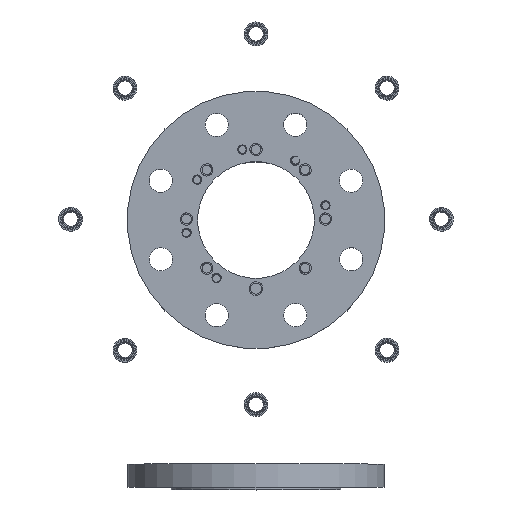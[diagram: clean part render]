
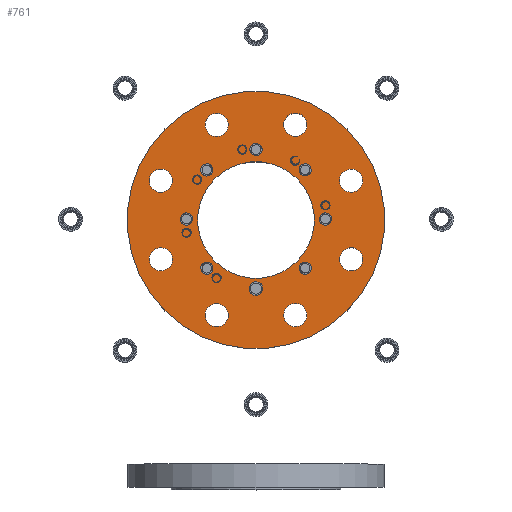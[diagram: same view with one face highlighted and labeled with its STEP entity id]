
A CAD part, top view. The second image highlights one B-rep face of the part: STEP entity #761.
In plain terms, the highlighted planar face has unit normal (0, 0, 1).
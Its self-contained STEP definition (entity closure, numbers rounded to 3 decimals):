
#761 = ADVANCED_FACE( '', ( #1603, #1604, #1605, #1606, #1607, #1608, #1609, #1610, #1611, #1612 ), #1613, .F. );
#1603 = FACE_BOUND( '', #3408, .T. );
#1604 = FACE_BOUND( '', #3409, .T. );
#1605 = FACE_BOUND( '', #3410, .T. );
#1606 = FACE_BOUND( '', #3411, .T. );
#1607 = FACE_BOUND( '', #3412, .T. );
#1608 = FACE_BOUND( '', #3413, .T. );
#1609 = FACE_BOUND( '', #3414, .T. );
#1610 = FACE_BOUND( '', #3415, .T. );
#1611 = FACE_BOUND( '', #3416, .T. );
#1612 = FACE_OUTER_BOUND( '', #3417, .T. );
#1613 = PLANE( '', #3418 );
#3408 = EDGE_LOOP( '', ( #6665 ) );
#3409 = EDGE_LOOP( '', ( #6666 ) );
#3410 = EDGE_LOOP( '', ( #6667 ) );
#3411 = EDGE_LOOP( '', ( #6668 ) );
#3412 = EDGE_LOOP( '', ( #6669 ) );
#3413 = EDGE_LOOP( '', ( #6670 ) );
#3414 = EDGE_LOOP( '', ( #6671 ) );
#3415 = EDGE_LOOP( '', ( #6672 ) );
#3416 = EDGE_LOOP( '', ( #6673 ) );
#3417 = EDGE_LOOP( '', ( #6674 ) );
#3418 = AXIS2_PLACEMENT_3D( '', #6675, #6676, #6677 );
#6665 = ORIENTED_EDGE( '', *, *, #8170, .F. );
#6666 = ORIENTED_EDGE( '', *, *, #8171, .T. );
#6667 = ORIENTED_EDGE( '', *, *, #7952, .T. );
#6668 = ORIENTED_EDGE( '', *, *, #8172, .T. );
#6669 = ORIENTED_EDGE( '', *, *, #8173, .T. );
#6670 = ORIENTED_EDGE( '', *, *, #8174, .T. );
#6671 = ORIENTED_EDGE( '', *, *, #7866, .T. );
#6672 = ORIENTED_EDGE( '', *, *, #7992, .T. );
#6673 = ORIENTED_EDGE( '', *, *, #8175, .T. );
#6674 = ORIENTED_EDGE( '', *, *, #7936, .T. );
#6675 = CARTESIAN_POINT( '', ( 70.711, -208.211, -258.5 ) );
#6676 = DIRECTION( '', ( 0., 0., -1. ) );
#6677 = DIRECTION( '', ( -0.707, 0.707, 0. ) );
#7866 = EDGE_CURVE( '', #8660, #8660, #8661, .T. );
#7936 = EDGE_CURVE( '', #8789, #8789, #8790, .T. );
#7952 = EDGE_CURVE( '', #8814, #8814, #8815, .T. );
#7992 = EDGE_CURVE( '', #8881, #8881, #8882, .T. );
#8170 = EDGE_CURVE( '', #9160, #9160, #9161, .T. );
#8171 = EDGE_CURVE( '', #9162, #9162, #9163, .T. );
#8172 = EDGE_CURVE( '', #9164, #9164, #9165, .T. );
#8173 = EDGE_CURVE( '', #9166, #9166, #9167, .T. );
#8174 = EDGE_CURVE( '', #9168, #9168, #9169, .T. );
#8175 = EDGE_CURVE( '', #9170, #9170, #9171, .T. );
#8660 = VERTEX_POINT( '', #10203 );
#8661 = CIRCLE( '', #10204, 9. );
#8789 = VERTEX_POINT( '', #10434 );
#8790 = CIRCLE( '', #10435, 100. );
#8814 = VERTEX_POINT( '', #10509 );
#8815 = CIRCLE( '', #10510, 9. );
#8881 = VERTEX_POINT( '', #10683 );
#8882 = CIRCLE( '', #10684, 9. );
#9160 = VERTEX_POINT( '', #11963 );
#9161 = CIRCLE( '', #11964, 45.25 );
#9162 = VERTEX_POINT( '', #11965 );
#9163 = CIRCLE( '', #11966, 9. );
#9164 = VERTEX_POINT( '', #11967 );
#9165 = CIRCLE( '', #11968, 9. );
#9166 = VERTEX_POINT( '', #11969 );
#9167 = CIRCLE( '', #11970, 9. );
#9168 = VERTEX_POINT( '', #11971 );
#9169 = CIRCLE( '', #11972, 9. );
#9170 = VERTEX_POINT( '', #11973 );
#9171 = CIRCLE( '', #11974, 9. );
#10203 = CARTESIAN_POINT( '', ( 36.979, -205.046, -258.5 ) );
#10204 = AXIS2_PLACEMENT_3D( '', #13897, #13898, #13899 );
#10434 = CARTESIAN_POINT( '', ( 70.711, -208.211, -258.5 ) );
#10435 = AXIS2_PLACEMENT_3D( '', #14001, #14002, #14003 );
#10509 = CARTESIAN_POINT( '', ( -36.979, -69.954, -258.5 ) );
#10510 = AXIS2_PLACEMENT_3D( '', #14012, #14013, #14014 );
#10683 = CARTESIAN_POINT( '', ( -21.615, -211.41, -258.5 ) );
#10684 = AXIS2_PLACEMENT_3D( '', #14051, #14052, #14053 );
#11963 = CARTESIAN_POINT( '', ( -31.997, -169.497, -258.5 ) );
#11964 = AXIS2_PLACEMENT_3D( '', #14164, #14165, #14166 );
#11965 = CARTESIAN_POINT( '', ( -73.91, -115.885, -258.5 ) );
#11966 = AXIS2_PLACEMENT_3D( '', #14167, #14168, #14169 );
#11967 = CARTESIAN_POINT( '', ( 21.615, -63.59, -258.5 ) );
#11968 = AXIS2_PLACEMENT_3D( '', #14170, #14171, #14172 );
#11969 = CARTESIAN_POINT( '', ( 67.546, -100.521, -258.5 ) );
#11970 = AXIS2_PLACEMENT_3D( '', #14173, #14174, #14175 );
#11971 = CARTESIAN_POINT( '', ( 73.91, -159.115, -258.5 ) );
#11972 = AXIS2_PLACEMENT_3D( '', #14176, #14177, #14178 );
#11973 = CARTESIAN_POINT( '', ( -67.546, -174.479, -258.5 ) );
#11974 = AXIS2_PLACEMENT_3D( '', #14179, #14180, #14181 );
#13897 = CARTESIAN_POINT( '', ( 30.615, -211.41, -258.5 ) );
#13898 = DIRECTION( '', ( 0., 0., -1. ) );
#13899 = DIRECTION( '', ( 0.707, 0.707, 0. ) );
#14001 = CARTESIAN_POINT( '', ( 0., -137.5, -258.5 ) );
#14002 = DIRECTION( '', ( 0., 0., 1. ) );
#14003 = DIRECTION( '', ( 0.707, -0.707, 0. ) );
#14012 = CARTESIAN_POINT( '', ( -30.615, -63.59, -258.5 ) );
#14013 = DIRECTION( '', ( 0., 0., -1. ) );
#14014 = DIRECTION( '', ( -0.707, -0.707, 0. ) );
#14051 = CARTESIAN_POINT( '', ( -30.615, -211.41, -258.5 ) );
#14052 = DIRECTION( '', ( 0., 0., -1. ) );
#14053 = DIRECTION( '', ( 1., 0., 0. ) );
#14164 = CARTESIAN_POINT( '', ( 0., -137.5, -258.5 ) );
#14165 = DIRECTION( '', ( 0., 0., 1. ) );
#14166 = DIRECTION( '', ( -0.707, -0.707, 0. ) );
#14167 = CARTESIAN_POINT( '', ( -73.91, -106.885, -258.5 ) );
#14168 = DIRECTION( '', ( 0., 0., -1. ) );
#14169 = DIRECTION( '', ( 0., -1., 0. ) );
#14170 = CARTESIAN_POINT( '', ( 30.615, -63.59, -258.5 ) );
#14171 = DIRECTION( '', ( 0., 0., -1. ) );
#14172 = DIRECTION( '', ( -1., 0., 0. ) );
#14173 = CARTESIAN_POINT( '', ( 73.91, -106.885, -258.5 ) );
#14174 = DIRECTION( '', ( 0., 0., -1. ) );
#14175 = DIRECTION( '', ( -0.707, 0.707, 0. ) );
#14176 = CARTESIAN_POINT( '', ( 73.91, -168.115, -258.5 ) );
#14177 = DIRECTION( '', ( 0., 0., -1. ) );
#14178 = DIRECTION( '', ( 0., 1., 0. ) );
#14179 = CARTESIAN_POINT( '', ( -73.91, -168.115, -258.5 ) );
#14180 = DIRECTION( '', ( 0., 0., -1. ) );
#14181 = DIRECTION( '', ( 0.707, -0.707, 0. ) );
